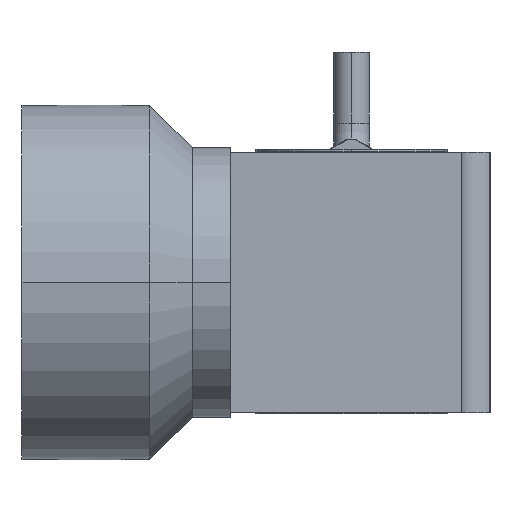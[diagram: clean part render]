
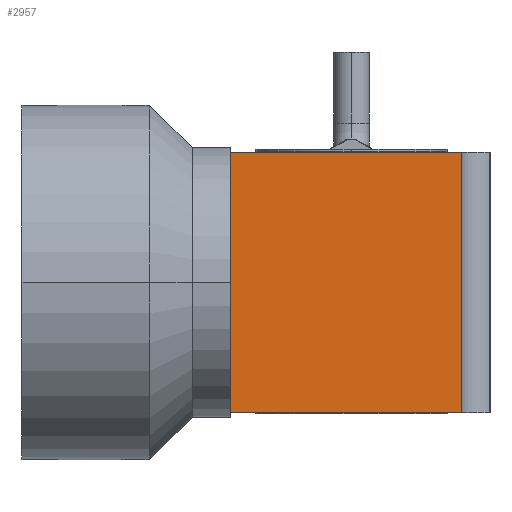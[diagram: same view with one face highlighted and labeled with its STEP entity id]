
A CAD part, left-side view. The second image highlights one B-rep face of the part: STEP entity #2957.
In plain terms, the highlighted planar face has unit normal (-1, 0, 0).
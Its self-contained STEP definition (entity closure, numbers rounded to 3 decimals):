
#832=DIRECTION('',(0.,1.,0.));
#833=VECTOR('',#832,32.576);
#834=CARTESIAN_POINT('',(0.,4.,18.39));
#835=LINE('',#834,#833);
#952=DIRECTION('',(0.,0.,-1.));
#953=VECTOR('',#952,36.779);
#954=CARTESIAN_POINT('',(0.,36.576,18.39));
#955=LINE('',#954,#953);
#986=DIRECTION('',(0.,0.,1.));
#987=VECTOR('',#986,36.779);
#988=CARTESIAN_POINT('',(0.,4.,-18.39));
#989=LINE('',#988,#987);
#990=DIRECTION('',(0.,1.,0.));
#991=VECTOR('',#990,32.576);
#992=CARTESIAN_POINT('',(0.,4.,-18.39));
#993=LINE('',#992,#991);
#1493=CARTESIAN_POINT('',(0.,36.576,-18.39));
#1494=VERTEX_POINT('',#1493);
#1547=CARTESIAN_POINT('',(0.,36.576,18.39));
#1549=VERTEX_POINT('',#1547);
#1569=CARTESIAN_POINT('',(0.,4.,-18.39));
#1570=CARTESIAN_POINT('',(0.,4.,18.39));
#1571=VERTEX_POINT('',#1569);
#1572=VERTEX_POINT('',#1570);
#2946=CARTESIAN_POINT('',(0.,36.576,-18.39));
#2947=DIRECTION('',(-1.,0.,0.));
#2948=DIRECTION('',(0.,-1.,0.));
#2949=AXIS2_PLACEMENT_3D('',#2946,#2947,#2948);
#2950=PLANE('',#2949);
#2951=ORIENTED_EDGE('',*,*,#2881,.F.);
#2952=ORIENTED_EDGE('',*,*,#2898,.T.);
#2953=ORIENTED_EDGE('',*,*,#2923,.F.);
#2954=ORIENTED_EDGE('',*,*,#2806,.F.);
#2955=EDGE_LOOP('',(#2951,#2952,#2953,#2954));
#2956=FACE_OUTER_BOUND('',#2955,.F.);
#2957=ADVANCED_FACE('',(#2956),#2950,.T.);
#2806=EDGE_CURVE('',#1572,#1549,#835,.T.);
#2881=EDGE_CURVE('',#1571,#1572,#989,.T.);
#2898=EDGE_CURVE('',#1571,#1494,#993,.T.);
#2923=EDGE_CURVE('',#1549,#1494,#955,.T.);
